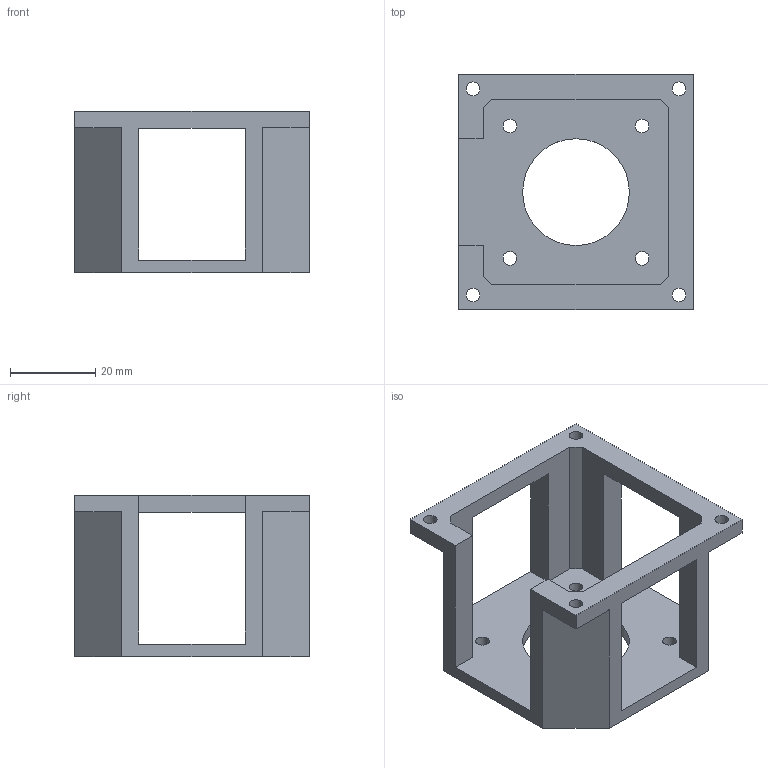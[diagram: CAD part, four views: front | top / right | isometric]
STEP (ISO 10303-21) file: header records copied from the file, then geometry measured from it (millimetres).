
FILE_DESCRIPTION(/* description */ (''),/* implementation_level */ '2;1');
FILE_NAME(/* name */ 'C:/Users/longl/OneDrive/Documents/OpenBox Builds/Parts/Z-Axis/Stepper Motor Mount/Stepper Motor Mount.step',/* time_stamp */ '2021-08-11T16:32:28-04:00',/* author */ (''),/* organization */ (''),/* preprocessor_version */ 'ST-DEVELOPER v18.1',/* originating_system */ 'Autodesk Translation Framework v10.9.0.1377',/* authorisation */ '');
FILE_SCHEMA (('AUTOMOTIVE_DESIGN { 1 0 10303 214 3 1 1 }'));
Length unit declared in the file: millimetre
Products named in the file (1): Z Axis Motor Holder
Bounding box: 55 x 55 x 37.9 mm (x, y, z)
Volume: 20622.1 mm3; surface area: 14773.3 mm2
Topology: 1 solids, 1 shells, 44 faces, 135 edges, 90 vertices
Faces by surface type: plane 35, cylinder 9
Full cylindrical faces by diameter (mm): 3.2 x8, 25 x1
Entity records: 1578 total; most frequent: ORIENTED_EDGE 270, CARTESIAN_POINT 270, DIRECTION 243, EDGE_CURVE 135, LINE 117, VECTOR 117, VERTEX_POINT 90, EDGE_LOOP 65
